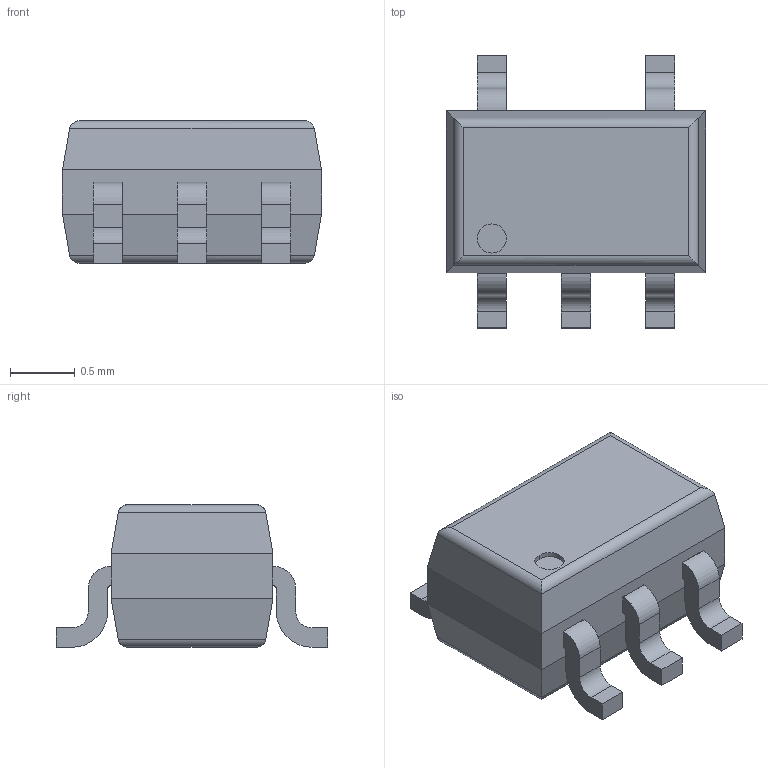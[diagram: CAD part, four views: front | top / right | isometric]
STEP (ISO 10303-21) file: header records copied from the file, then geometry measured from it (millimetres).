
FILE_DESCRIPTION (( 'STEP AP214' ), '1' );
FILE_NAME ( 'SOT23-5P65_210X110L36X22.STEP', '2021-10-06T06:48:57', ( '' ), ( '' ), '', '©2017 PCB Libraries, Inc.', '' );
FILE_SCHEMA (( 'AUTOMOTIVE_DESIGN' ));
Length unit declared in the file: millimetre
Products named in the file (1): SOT23-5P65_210X110L36X22
Bounding box: 2 x 2.1 x 1.1 mm (x, y, z)
Volume: 2.7 mm3; surface area: 14.2 mm2
Topology: 6 solids, 6 shells, 95 faces, 230 edges, 148 vertices
Faces by surface type: plane 65, cylinder 30
Entity records: 2901 total; most frequent: CARTESIAN_POINT 498, ORIENTED_EDGE 460, DIRECTION 458, EDGE_CURVE 230, VECTOR 178, LINE 178, VERTEX_POINT 148, AXIS2_PLACEMENT_3D 140
